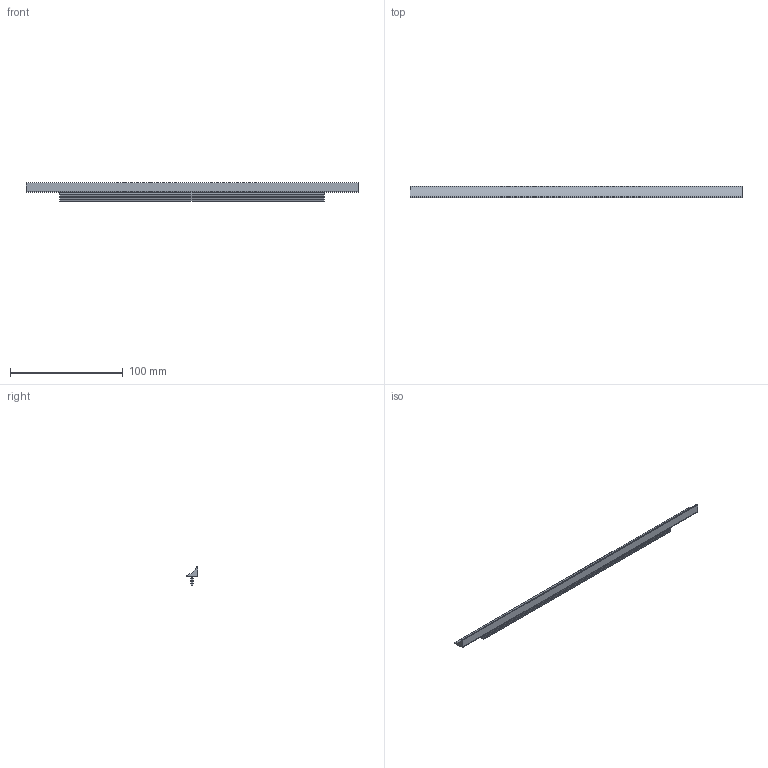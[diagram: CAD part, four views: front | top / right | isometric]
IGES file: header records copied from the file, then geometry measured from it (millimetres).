
Start section: Data from Parasolid IGES Translator 20.0.26, Copyright(c) 2006 Siemens P LM Software. All Rights Reserved.
Global section: file name: 9208097.igs; native system: By Siemens PLM Incorporated; preprocessor: XPlus GENERIC/IGES 20.0.26; author: Noname; organization: Noname; date: 20211115.182315; units: millimetre
Bounding box: 295 x 10.5 x 16.51 mm (x, y, z)
Surface area: 14296.4 mm2 (no closed solid volume)
Topology: 0 solids, 0 shells, 30 faces, 162 edges, 162 vertices
Faces by surface type: extrusion 25, revolution 5
